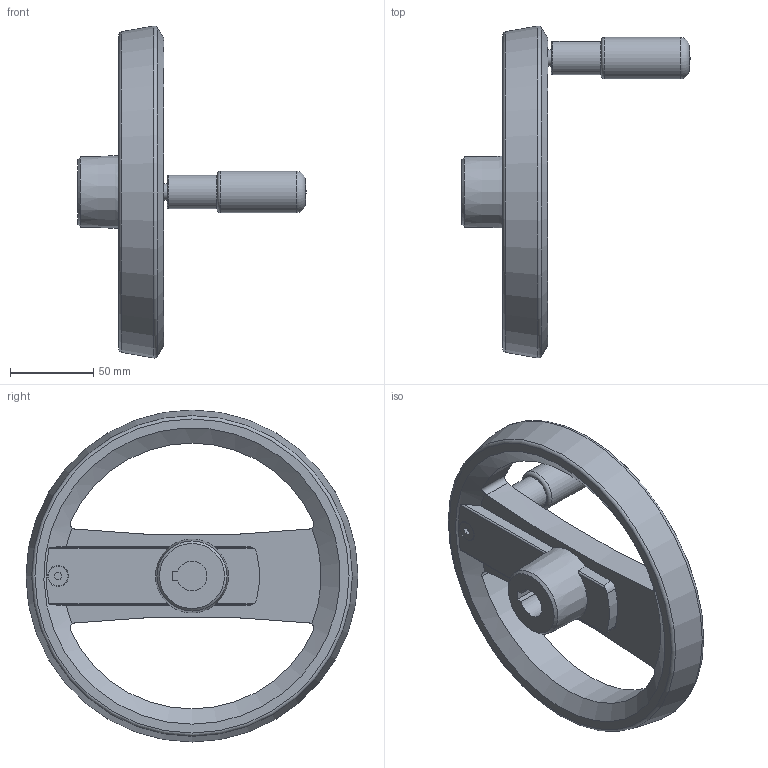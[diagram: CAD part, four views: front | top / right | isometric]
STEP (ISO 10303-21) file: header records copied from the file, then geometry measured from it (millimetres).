
FILE_DESCRIPTION( ( 'STEP AP203' ), '1' );
FILE_NAME( 'C:/Temp/Ganter_Step_05_03_2020/data/1_3/gn_924_3/gn_924_3_k/Handwheel with retractable handle GN 924.3-200-K18-R-SW (activated).stp', '2020-03-05T10:41:19', ( 'License CC BY-ND 4.0' ), ( 'CADENAS' ), ' ', 'PARTsolutions', ' ' );
FILE_SCHEMA( ( 'CONFIG_CONTROL_DESIGN' ) );
Length unit declared in the file: millimetre
Products named in the file (3): Handwheel with retractable handle GN 924.3-200-K18-R-SW (activated); _Umleggriff-Handrad GN 924.3-200-K18-R-SW-1; _Umleggriff-Handrad GN 924.3-200-K18-R-SW-2
Assembly tree (2 placements, depth 2):
  Handwheel with retractable handle GN 924.3-200-K18-R-SW (activated)
    _Umleggriff-Handrad GN 924.3-200-K18-R-SW-1
    _Umleggriff-Handrad GN 924.3-200-K18-R-SW-2
Bounding box: 137.2 x 199.58 x 199.58 mm (x, y, z)
Volume: 416743.6 mm3; surface area: 85455.2 mm2
Topology: 2 solids, 2 shells, 104 faces, 269 edges, 172 vertices
Faces by surface type: plane 46, cylinder 39, cone 10, torus 7, sphere 2
Full cylindrical faces by diameter (mm): 3.96 x2, 4 x2, 5 x1, 10 x1, 12 x1, 20 x1, 25 x2, 26.6 x1
Entity records: 3433 total; most frequent: CARTESIAN_POINT 928, DIRECTION 504, ORIENTED_EDGE 462, EDGE_CURVE 231, AXIS2_PLACEMENT_3D 203, VERTEX_POINT 166, EDGE_LOOP 144, FACE_OUTER_BOUND 122
